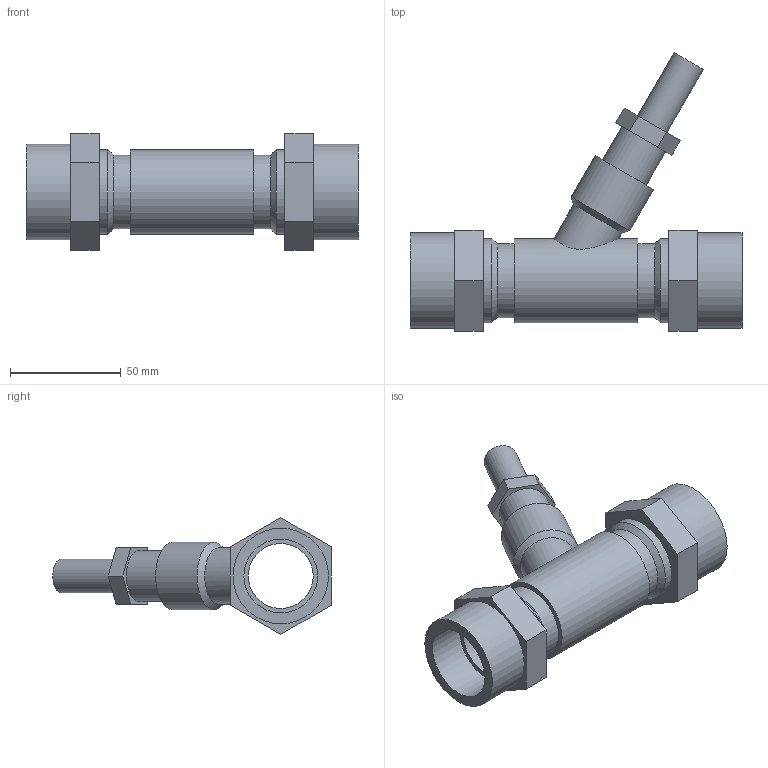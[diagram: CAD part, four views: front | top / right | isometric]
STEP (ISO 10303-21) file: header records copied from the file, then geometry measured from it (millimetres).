
FILE_DESCRIPTION(/* description */ ('VIC DIFFERENTIAL PRESSURE RELIEF VALVE SERIES 782 (CUP)','CAx-IF Rec.Pracs.---Representation and Presentation of Product Manufacturing Information (PMI)---4.0---2014-10-13'),/* implementation_level */ '2;1');
FILE_NAME(/* name */ 'C:\Users\kkamble\Desktop\New folder (12)\New folder\step\Victaulic_IPS_Valve Differential Pressure Relief_TA Series 782 (CUP)\Victaulic_IPS_Valve Differential Pressure Relief_TA Series 782 (CUP)_1 (25).stp',/* time_stamp */ '2020-10-13T18:45:27+05:00',/* author */ ('kkamble'),/* organization */ ('Victaulic'),/* preprocessor_version */ 'ST-DEVELOPER v17.2',/* originating_system */ 'Autodesk Inventor 2019',/* authorisation */ '');
FILE_SCHEMA (('AP242_MANAGED_MODEL_BASED_3D_ENGINEERING_MIM_LF { 1 0 10303 442 1 1 4 }'));
Length unit declared in the file: inch
Products named in the file (1): 782-01.0
Bounding box: 150.11 x 125.98 x 52.79 mm (x, y, z)
Volume: 128883.7 mm3; surface area: 45299.2 mm2
Topology: 1 solids, 1 shells, 49 faces, 121 edges, 86 vertices
Faces by surface type: plane 32, cylinder 14, cone 3
Full cylindrical faces by diameter (mm): 15.24 x1, 22.86 x1, 25.4 x1, 29.337 x1, 30.48 x1, 33.401 x4, 38.1 x3, 43.18 x2
Entity records: 1718 total; most frequent: CARTESIAN_POINT 320, DIRECTION 293, ORIENTED_EDGE 242, EDGE_CURVE 121, AXIS2_PLACEMENT_3D 111, VERTEX_POINT 86, LINE 71, VECTOR 71
